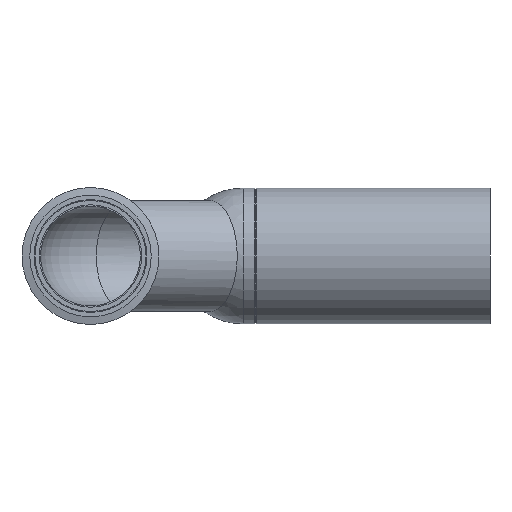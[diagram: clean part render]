
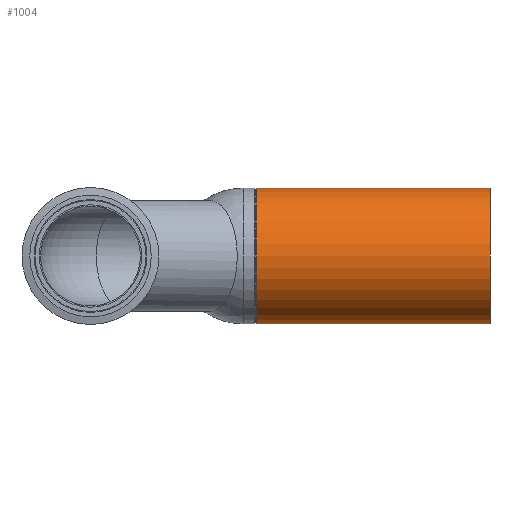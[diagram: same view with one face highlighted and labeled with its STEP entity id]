
A CAD part, left-side view. The second image highlights one B-rep face of the part: STEP entity #1004.
In plain terms, the highlighted cylindrical face has radius 55 mm (diameter 110 mm), a partial arc.
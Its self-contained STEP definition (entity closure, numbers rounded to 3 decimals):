
#114=CYLINDRICAL_SURFACE($,#1099,55.);
#154=FACE_OUTER_BOUND($,#217,.T.);
#217=EDGE_LOOP($,(#734,#735,#736,#737));
#335=CIRCLE($,#1098,55.);
#336=CIRCLE($,#1100,55.);
#414=LINE($,#1638,#442);
#415=LINE($,#1641,#443);
#442=VECTOR($,#1308,189.365);
#443=VECTOR($,#1311,189.365);
#476=VERTEX_POINT($,#1631);
#477=VERTEX_POINT($,#1633);
#478=VERTEX_POINT($,#1637);
#479=VERTEX_POINT($,#1639);
#581=EDGE_CURVE($,#477,#476,#335,.T.);
#583=EDGE_CURVE($,#478,#476,#414,.T.);
#584=EDGE_CURVE($,#479,#478,#336,.T.);
#585=EDGE_CURVE($,#479,#477,#415,.T.);
#734=ORIENTED_EDGE($,*,*,#581,.T.);
#735=ORIENTED_EDGE($,*,*,#583,.F.);
#736=ORIENTED_EDGE($,*,*,#584,.F.);
#737=ORIENTED_EDGE($,*,*,#585,.T.);
#1004=ADVANCED_FACE($,(#154),#114,.T.);
#1098=AXIS2_PLACEMENT_3D($,#1634,#1303,#1304);
#1099=AXIS2_PLACEMENT_3D($,#1636,#1306,#1307);
#1100=AXIS2_PLACEMENT_3D($,#1640,#1309,#1310);
#1303=DIRECTION('center_axis',(0.,-1.,0.));
#1304=DIRECTION('ref_axis',(0.,0.,
1.));
#1306=DIRECTION('center_axis',(0.,-1.,0.));
#1307=DIRECTION('ref_axis',(0.,0.,
1.));
#1308=DIRECTION($,(0.,1.,0.));
#1309=DIRECTION('center_axis',(0.,-1.,0.));
#1310=DIRECTION('ref_axis',(0.,0.,
1.));
#1311=DIRECTION($,(0.,1.,0.));
#1631=CARTESIAN_POINT('',(0.,189.365,-55.));
#1633=CARTESIAN_POINT('',(0.,189.365,55.));
#1634=CARTESIAN_POINT('Origin',(0.,189.365,
0.));
#1636=CARTESIAN_POINT('Origin',(0.,100.,0.));
#1637=CARTESIAN_POINT('',(0.,0.,-55.));
#1638=CARTESIAN_POINT($,(0.,0.,-55.));
#1639=CARTESIAN_POINT('',(0.,0.,
55.));
#1640=CARTESIAN_POINT('Origin',(0.,0.,0.));
#1641=CARTESIAN_POINT($,(0.,0.,
55.));
